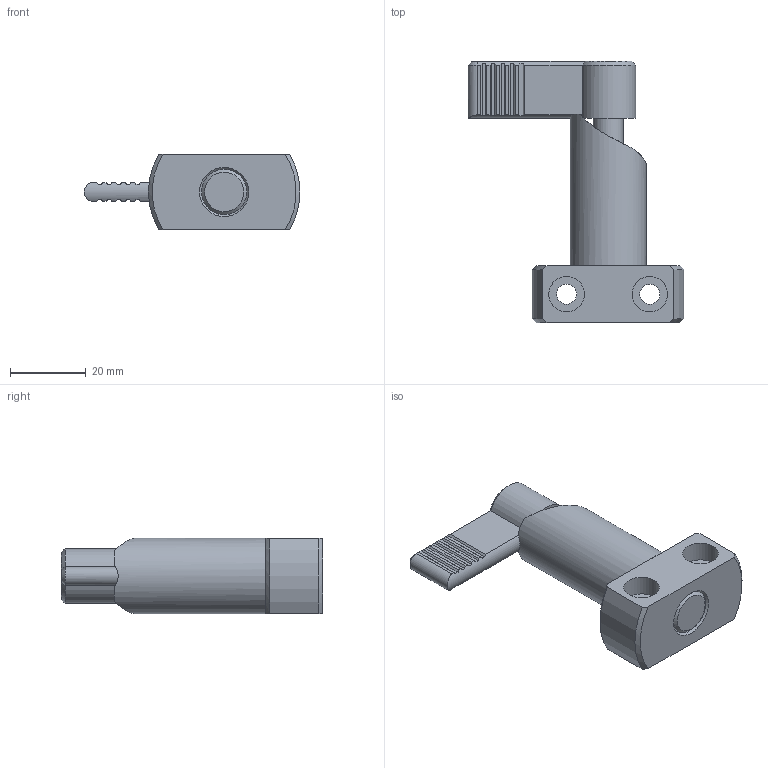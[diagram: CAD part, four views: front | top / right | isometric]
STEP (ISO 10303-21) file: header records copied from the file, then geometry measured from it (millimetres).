
FILE_DESCRIPTION( ( 'STEP AP203' ), '1' );
FILE_NAME( 'C:/Temp/Ganter_Step_05_03_2020/data/3_1/gn612_2/Indexing plunger GN 612.2-12-20-A (activated).stp', '2020-03-12T08:35:08', ( 'License CC BY-ND 4.0' ), ( 'CADENAS' ), ' ', 'PARTsolutions', ' ' );
FILE_SCHEMA( ( 'CONFIG_CONTROL_DESIGN' ) );
Length unit declared in the file: millimetre
Products named in the file (3): Indexing plunger GN 612.2-12-20-A (activated); _Rastriegel GN 612.2-12-20-A (betaetigt)-a; _Rastriegel GN 612.2-12-20-A (betaetigt)-b
Assembly tree (2 placements, depth 2):
  Indexing plunger GN 612.2-12-20-A (activated)
    _Rastriegel GN 612.2-12-20-A (betaetigt)-a
    _Rastriegel GN 612.2-12-20-A (betaetigt)-b
Bounding box: 57 x 69 x 20 mm (x, y, z)
Volume: 23851.8 mm3; surface area: 11874.6 mm2
Topology: 2 solids, 2 shells, 102 faces, 254 edges, 165 vertices
Faces by surface type: plane 63, cylinder 28, cone 10, torus 1
Full cylindrical faces by diameter (mm): 5.3 x2, 8 x2, 8.9 x1, 9.1 x1, 9.4 x4, 12 x2, 14.5 x1, 16 x1, 20 x1
Entity records: 3276 total; most frequent: CARTESIAN_POINT 811, DIRECTION 480, ORIENTED_EDGE 466, EDGE_CURVE 233, AXIS2_PLACEMENT_3D 174, VERTEX_POINT 163, EDGE_LOOP 136, LINE 132
